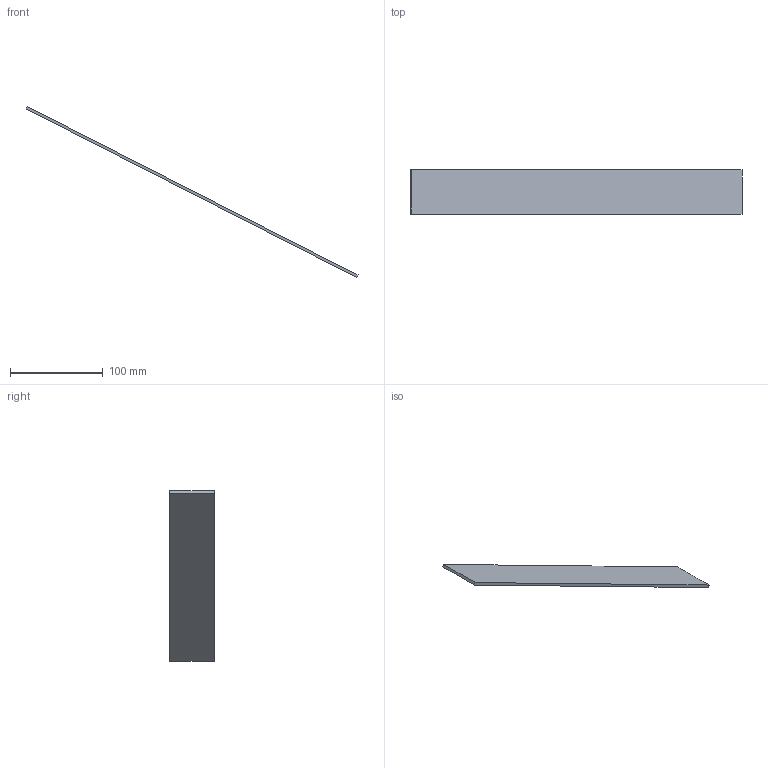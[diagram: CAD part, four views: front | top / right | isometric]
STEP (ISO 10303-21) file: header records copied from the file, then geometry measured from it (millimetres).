
FILE_DESCRIPTION(('Open CASCADE Model'),'2;1');
FILE_NAME('Open CASCADE Shape Model','2026-10-04T01:02:27',('Author'),( 'Open CASCADE'),'Open CASCADE STEP processor 8.0','Open CASCADE 8.0' ,'Unknown');
FILE_SCHEMA(('AUTOMOTIVE_DESIGN { 1 0 10303 214 1 1 1 1 }'));
Length unit declared in the file: millimetre
Products named in the file (1): Open CASCADE STEP translator 8.0 111
Bounding box: 358.86 x 48 x 184.67 mm (x, y, z)
Volume: 57767.2 mm3; surface area: 41206.4 mm2
Topology: 1 solids, 1 shells, 6 faces, 12 edges, 8 vertices
Faces by surface type: plane 6
Entity records: 322 total; most frequent: CARTESIAN_POINT 51, DIRECTION 50, LINE 36, VECTOR 36, ORIENTED_EDGE 24, PCURVE 24, DEFINITIONAL_REPRESENTATION 24, EDGE_CURVE 12
